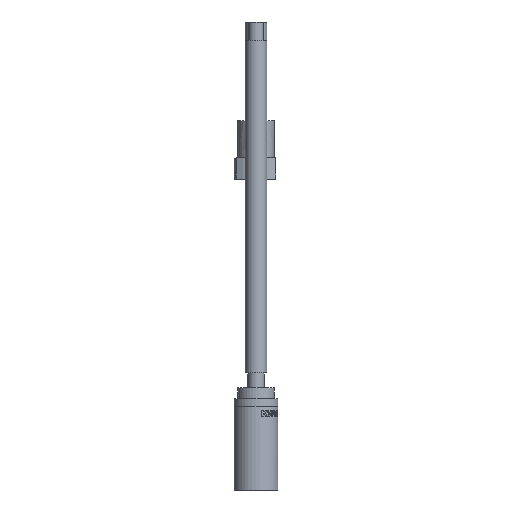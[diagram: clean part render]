
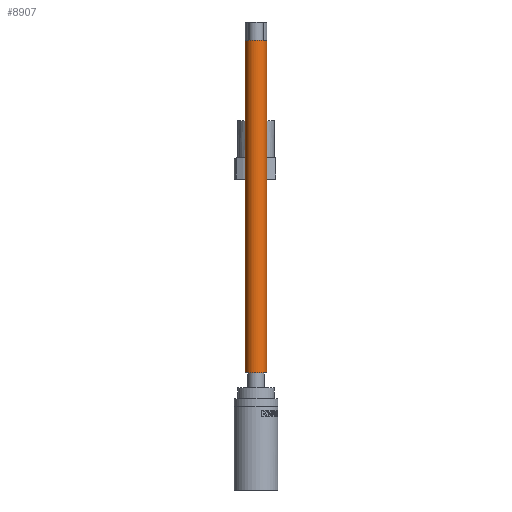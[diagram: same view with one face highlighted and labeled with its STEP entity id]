
A CAD part, left-side view. The second image highlights one B-rep face of the part: STEP entity #8907.
In plain terms, the highlighted cylindrical face has radius 1.5 mm (diameter 3 mm), a full revolution.
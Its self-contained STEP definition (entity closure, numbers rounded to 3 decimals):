
#8907=ADVANCED_FACE('',(#9721,#9722),#9131,.T.);
#9131=CYLINDRICAL_SURFACE('',#20699,1.5);
#9721=FACE_BOUND('',#11041,.T.);
#9722=FACE_BOUND('',#11042,.T.);
#11041=EDGE_LOOP('',(#15208));
#11042=EDGE_LOOP('',(#15209));
#15208=ORIENTED_EDGE('',*,*,#18949,.F.);
#15209=ORIENTED_EDGE('',*,*,#18950,.T.);
#16827=VERTEX_POINT('',#41214);
#16828=VERTEX_POINT('',#41216);
#18949=EDGE_CURVE('',#16827,#16827,#19472,.T.);
#18950=EDGE_CURVE('',#16828,#16828,#19473,.T.);
#19472=CIRCLE('',#20697,1.5);
#19473=CIRCLE('',#20698,1.5);
#20697=AXIS2_PLACEMENT_3D('',#41213,#23551,#23552);
#20698=AXIS2_PLACEMENT_3D('',#41215,#23553,#23554);
#20699=AXIS2_PLACEMENT_3D('',#41217,#23555,#23556);
#23551=DIRECTION('',(0.,0.,-1.));
#23552=DIRECTION('',(-1.,0.,0.));
#23553=DIRECTION('',(0.,0.,-1.));
#23554=DIRECTION('',(-1.,0.,0.));
#23555=DIRECTION('',(0.,0.,-1.));
#23556=DIRECTION('',(-1.,0.,0.));
#41213=CARTESIAN_POINT('',(-52.,0.,16.));
#41214=CARTESIAN_POINT('',(-53.5,0.,16.));
#41215=CARTESIAN_POINT('',(-52.,0.,61.5));
#41216=CARTESIAN_POINT('',(-53.5,0.,61.5));
#41217=CARTESIAN_POINT('',(-52.,0.,12.5));
